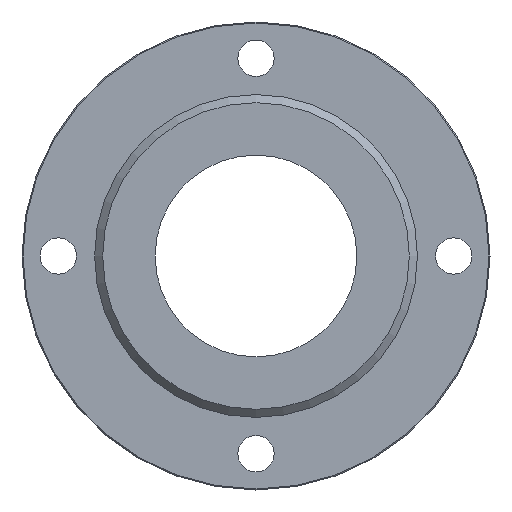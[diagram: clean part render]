
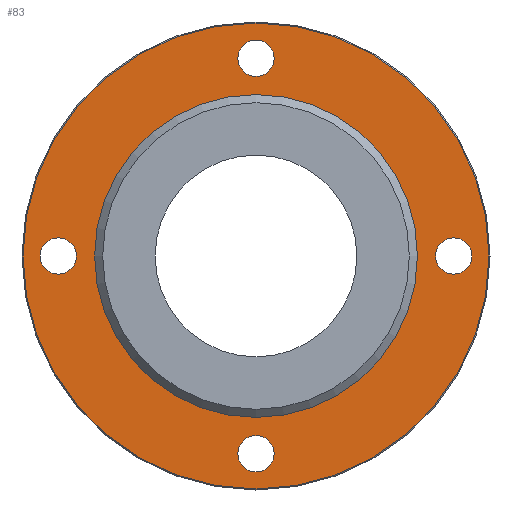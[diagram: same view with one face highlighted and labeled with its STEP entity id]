
A CAD part, left-side view. The second image highlights one B-rep face of the part: STEP entity #83.
In plain terms, the highlighted planar face has unit normal (-1, 0, 0).
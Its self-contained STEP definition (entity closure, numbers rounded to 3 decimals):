
#83=ADVANCED_FACE('',(#125,#126,#127,#128,#129,#130),#131,.F.);
#125=FACE_BOUND('',#196,.T.);
#126=FACE_BOUND('',#197,.T.);
#127=FACE_BOUND('',#198,.T.);
#128=FACE_BOUND('',#199,.T.);
#129=FACE_BOUND('',#200,.T.);
#130=FACE_OUTER_BOUND('',#201,.T.);
#131=PLANE('',#202);
#196=EDGE_LOOP('',(#283));
#197=EDGE_LOOP('',(#284));
#198=EDGE_LOOP('',(#285));
#199=EDGE_LOOP('',(#286));
#200=EDGE_LOOP('',(#287));
#201=EDGE_LOOP('',(#288));
#202=AXIS2_PLACEMENT_3D('',#289,#290,#291);
#283=ORIENTED_EDGE('',*,*,#367,.T.);
#284=ORIENTED_EDGE('',*,*,#368,.T.);
#285=ORIENTED_EDGE('',*,*,#356,.T.);
#286=ORIENTED_EDGE('',*,*,#369,.T.);
#287=ORIENTED_EDGE('',*,*,#370,.T.);
#288=ORIENTED_EDGE('',*,*,#366,.T.);
#289=CARTESIAN_POINT('',(-18.0,57.746,0.0));
#290=DIRECTION('',(1.0,0.0,0.0));
#291=DIRECTION('',(0.0,0.0,-1.0));
#356=EDGE_CURVE('',#385,#385,#386,.T.);
#366=EDGE_CURVE('',#405,#405,#406,.T.);
#367=EDGE_CURVE('',#407,#407,#408,.T.);
#368=EDGE_CURVE('',#409,#409,#410,.T.);
#369=EDGE_CURVE('',#411,#411,#412,.T.);
#370=EDGE_CURVE('',#413,#413,#414,.T.);
#385=VERTEX_POINT('',#435);
#386=CIRCLE('',#436,4.5);
#405=VERTEX_POINT('',#455);
#406=CIRCLE('',#456,57.746);
#407=VERTEX_POINT('',#457);
#408=CIRCLE('',#458,4.5);
#409=VERTEX_POINT('',#459);
#410=CIRCLE('',#460,4.5);
#411=VERTEX_POINT('',#461);
#412=CIRCLE('',#462,4.5);
#413=VERTEX_POINT('',#463);
#414=CIRCLE('',#464,40.0);
#435=CARTESIAN_POINT('',(-18.0,0.,44.5));
#436=AXIS2_PLACEMENT_3D('',#489,#490,#491);
#455=CARTESIAN_POINT('',(-18.0,0.,57.746));
#456=AXIS2_PLACEMENT_3D('',#519,#520,#521);
#457=CARTESIAN_POINT('',(-18.0,0.,-53.5));
#458=AXIS2_PLACEMENT_3D('',#522,#523,#524);
#459=CARTESIAN_POINT('',(-18.0,-49.0,-4.5));
#460=AXIS2_PLACEMENT_3D('',#525,#526,#527);
#461=CARTESIAN_POINT('',(-18.0,49.0,-4.5));
#462=AXIS2_PLACEMENT_3D('',#528,#529,#530);
#463=CARTESIAN_POINT('',(-18.0,0.,-40.0));
#464=AXIS2_PLACEMENT_3D('',#531,#532,#533);
#489=CARTESIAN_POINT('',(-18.0,0.,49.0));
#490=DIRECTION('',(1.0,0.0,0.0));
#491=DIRECTION('',(0.0,0.0,-1.0));
#519=CARTESIAN_POINT('',(-18.0,0.,0.0));
#520=DIRECTION('',(-1.0,0.0,0.0));
#521=DIRECTION('',(0.0,0.0,1.0));
#522=CARTESIAN_POINT('',(-18.0,0.,-49.0));
#523=DIRECTION('',(1.0,0.0,0.0));
#524=DIRECTION('',(0.0,0.0,-1.0));
#525=CARTESIAN_POINT('',(-18.0,-49.0,0.));
#526=DIRECTION('',(1.0,0.0,0.0));
#527=DIRECTION('',(0.0,0.0,-1.0));
#528=CARTESIAN_POINT('',(-18.0,49.0,0.0));
#529=DIRECTION('',(1.0,0.0,0.0));
#530=DIRECTION('',(0.0,0.0,-1.0));
#531=CARTESIAN_POINT('',(-18.0,0.,0.0));
#532=DIRECTION('',(1.0,0.0,0.0));
#533=DIRECTION('',(0.0,0.0,-1.0));
